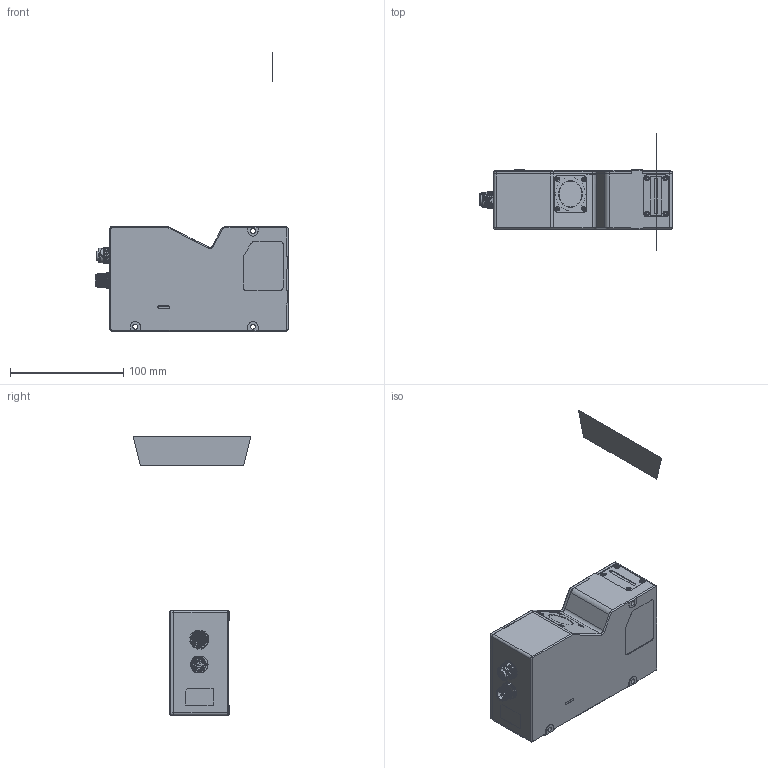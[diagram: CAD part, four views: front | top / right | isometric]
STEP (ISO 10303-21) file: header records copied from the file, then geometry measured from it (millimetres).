
FILE_DESCRIPTION((''),'2;1');
FILE_NAME('MV-DP2140-01P_SPEC','2025-06-21T16:35:56',('shiqiangsheng5'),(''),'CREO PARAMETRIC BY PTC INC, 2020044','CREO PARAMETRIC BY PTC INC, 2020044','');
FILE_SCHEMA(('AUTOMOTIVE_DESIGN { 1 0 10303 214 1 1 1 1 }'));
Products named in the file (1): MV-DP2140-01P_SPEC
Bounding box: 170.7 x 104 x 247 mm (x, y, z)
Surface area: 63221.3 mm2 (no closed solid volume)
Topology: 0 solids, 39 shells, 580 faces, 2113 edges, 1520 vertices
Faces by surface type: cylinder 190, plane 183, cone 139, bspline 42, torus 26
Entity records: 42517 total; most frequent: CARTESIAN_POINT 25237, ORIENTED_EDGE 3418, DIRECTION 3309, EDGE_CURVE 2082, VERTEX_POINT 1516, AXIS2_PLACEMENT_3D 1190, VECTOR 929, LINE 929
